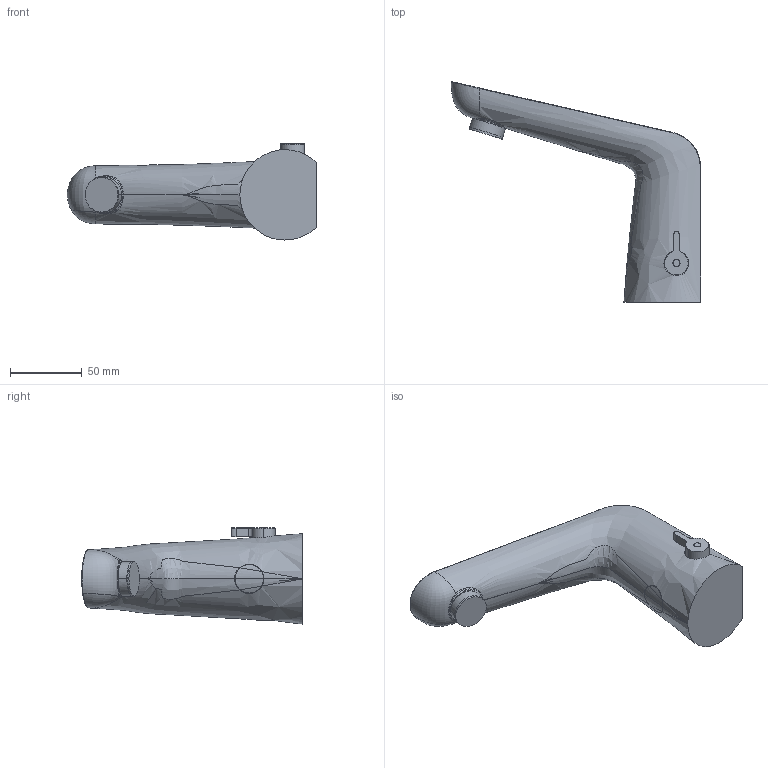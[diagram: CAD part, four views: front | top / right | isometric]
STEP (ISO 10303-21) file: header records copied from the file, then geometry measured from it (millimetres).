
FILE_DESCRIPTION (( 'STEP AP203' ), '1' );
FILE_NAME ('BT.ES2570-F.STEP', '2023-02-16T13:41:56', ( '' ), ( '' ), 'SwSTEP 2.0', 'SolidWorks 2021', '' );
FILE_SCHEMA (( 'CONFIG_CONTROL_DESIGN' ));
Length unit declared in the file: millimetre
Products named in the file (1): BT.ES2570-F
Bounding box: 174 x 153.92 x 67.04 mm (x, y, z)
Volume: 385537.8 mm3; surface area: 52687.2 mm2
Topology: 3 solids, 3 shells, 253 faces, 624 edges, 392 vertices
Faces by surface type: plane 89, bspline 80, cylinder 73, torus 7, cone 4
Entity records: 27418 total; most frequent: CARTESIAN_POINT 21925, ORIENTED_EDGE 1228, DIRECTION 955, EDGE_CURVE 614, VERTEX_POINT 392, AXIS2_PLACEMENT_3D 358, EDGE_LOOP 280, FACE_OUTER_BOUND 253
